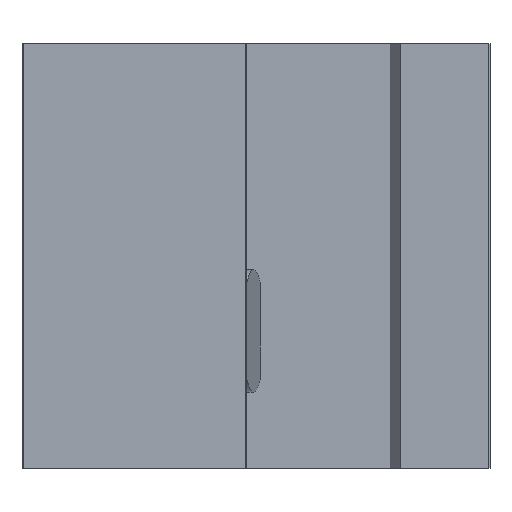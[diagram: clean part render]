
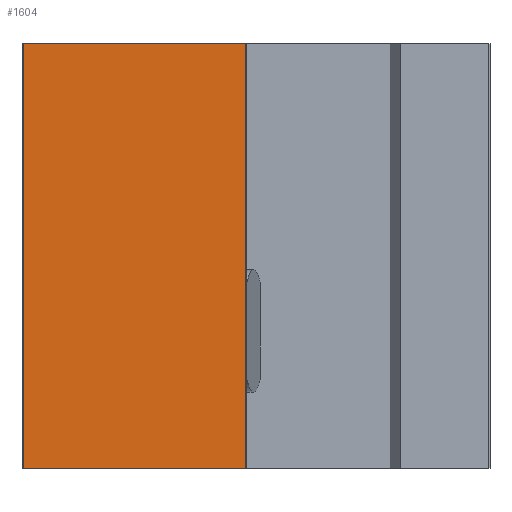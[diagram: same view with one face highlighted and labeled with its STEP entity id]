
A CAD part, front view. The second image highlights one B-rep face of the part: STEP entity #1604.
In plain terms, the highlighted planar face has unit normal (0, -1, 0).
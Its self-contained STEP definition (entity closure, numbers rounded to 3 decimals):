
#756 = VERTEX_POINT( '', #1891 );
#1212 = EDGE_CURVE( '', #1306, #756, #2404, .T. );
#1306 = VERTEX_POINT( '', #2507 );
#1314 = EDGE_CURVE( '', #1348, #756, #2518, .T. );
#1348 = VERTEX_POINT( '', #2556 );
#1352 = EDGE_CURVE( '', #1500, #1348, #2560, .T. );
#1440 = EDGE_CURVE( '', #1500, #1306, #2661, .T. );
#1500 = VERTEX_POINT( '', #2725 );
#1604 = ADVANCED_FACE( '', ( #2844 ), #2845, .T. );
#1891 = CARTESIAN_POINT( '', ( -6.4, -3., -34. ) );
#2404 = LINE( '', #3895, #3896 );
#2507 = CARTESIAN_POINT( '', ( -6.4, -3., 0. ) );
#2518 = LINE( '', #4054, #4055 );
#2556 = CARTESIAN_POINT( '', ( -24.2, -3., -34. ) );
#2560 = LINE( '', #4116, #4117 );
#2661 = LINE( '', #4253, #4254 );
#2725 = CARTESIAN_POINT( '', ( -24.2, -3., 0. ) );
#2844 = FACE_OUTER_BOUND( '', #4506, .T. );
#2845 = PLANE( '', #4507 );
#3895 = CARTESIAN_POINT( '', ( -6.4, -3., 0. ) );
#3896 = VECTOR( '', #5415, 1. );
#4054 = CARTESIAN_POINT( '', ( -24.2, -3., -34. ) );
#4055 = VECTOR( '', #5547, 1. );
#4116 = CARTESIAN_POINT( '', ( -24.2, -3., 0. ) );
#4117 = VECTOR( '', #5598, 1. );
#4253 = CARTESIAN_POINT( '', ( -24.2, -3., 0. ) );
#4254 = VECTOR( '', #5712, 1. );
#4506 = EDGE_LOOP( '', ( #5913, #5914, #5915, #5916 ) );
#4507 = AXIS2_PLACEMENT_3D( '', #5917, #5918, #5919 );
#5415 = DIRECTION( '', ( 0., 0., -1. ) );
#5547 = DIRECTION( '', ( 1., 0., 0. ) );
#5598 = DIRECTION( '', ( 0., 0., -1. ) );
#5712 = DIRECTION( '', ( 1., 0., 0. ) );
#5913 = ORIENTED_EDGE( '', *, *, #1314, .T. );
#5914 = ORIENTED_EDGE( '', *, *, #1212, .F. );
#5915 = ORIENTED_EDGE( '', *, *, #1440, .F. );
#5916 = ORIENTED_EDGE( '', *, *, #1352, .T. );
#5917 = CARTESIAN_POINT( '', ( -24.2, -3., 0. ) );
#5918 = DIRECTION( '', ( 0., -1., 0. ) );
#5919 = DIRECTION( '', ( -1., 0., 0. ) );
